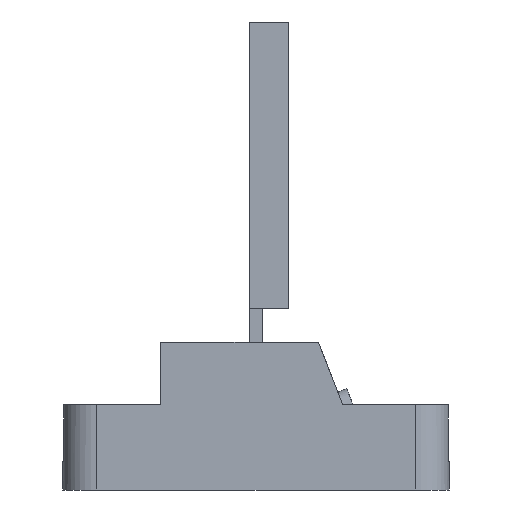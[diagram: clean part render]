
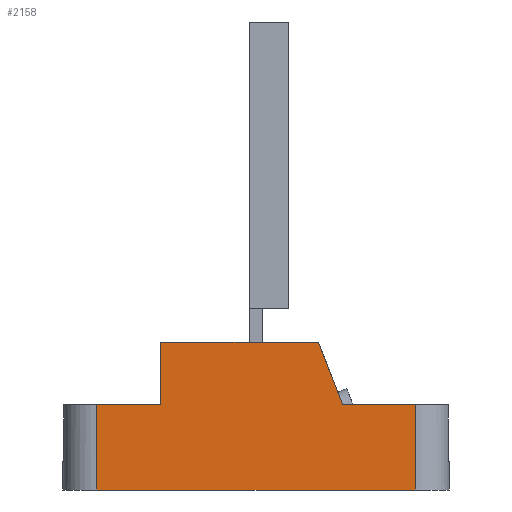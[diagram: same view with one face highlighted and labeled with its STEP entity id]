
A CAD part, left-side view. The second image highlights one B-rep face of the part: STEP entity #2158.
In plain terms, the highlighted planar face has unit normal (-1, 0, 0).
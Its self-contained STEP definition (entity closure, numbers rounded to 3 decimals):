
#20 = LINE ( 'NONE', #30, #34 ) ;
#30 = CARTESIAN_POINT ( 'NONE',  ( -7.5, -6.946, -3.741 ) ) ;
#33 = DIRECTION ( 'NONE',  ( 0., 0.361, 0.933 ) ) ;
#34 = VECTOR ( 'NONE', #33, 1000. ) ;
#596 = CARTESIAN_POINT ( 'NONE',  ( -7.5, -5.5, 0. ) ) ;
#888 = DIRECTION ( 'NONE',  ( 0., -1., 0. ) ) ;
#889 = VECTOR ( 'NONE', #888, 1000. ) ;
#890 = CARTESIAN_POINT ( 'NONE',  ( -7.5, 17., 0. ) ) ;
#891 = LINE ( 'NONE', #890, #889 ) ;
#1024 = CARTESIAN_POINT ( 'NONE',  ( -7.5, 17., -13. ) ) ;
#1039 = CARTESIAN_POINT ( 'NONE',  ( -7.5, 17., -5.5 ) ) ;
#1040 = LINE ( 'NONE', #1060, #1086 ) ;
#1049 = DIRECTION ( 'NONE',  ( 0., 0., 1. ) ) ;
#1051 = LINE ( 'NONE', #1039, #1118 ) ;
#1060 = CARTESIAN_POINT ( 'NONE',  ( -7.5, -14., -13. ) ) ;
#1084 = DIRECTION ( 'NONE',  ( 0., -1., 0. ) ) ;
#1085 = VECTOR ( 'NONE', #1084, 1000. ) ;
#1086 = VECTOR ( 'NONE', #1049, 1000. ) ;
#1117 = DIRECTION ( 'NONE',  ( 0., -1., 0. ) ) ;
#1118 = VECTOR ( 'NONE', #1117, 1000. ) ;
#1177 = CARTESIAN_POINT ( 'NONE',  ( -7.5, -14., -5.5 ) ) ;
#1179 = DIRECTION ( 'NONE',  ( 0., 0., 1. ) ) ;
#1180 = VECTOR ( 'NONE', #1179, 1000. ) ;
#1210 = CARTESIAN_POINT ( 'NONE',  ( -7.5, 8.4, -5.5 ) ) ;
#1211 = LINE ( 'NONE', #1210, #1180 ) ;
#1216 = CARTESIAN_POINT ( 'NONE',  ( -7.5, -7.627, -5.5 ) ) ;
#1225 = CARTESIAN_POINT ( 'NONE',  ( -7.5, 8.4, 0. ) ) ;
#1329 = CARTESIAN_POINT ( 'NONE',  ( -7.5, 14., -13. ) ) ;
#1330 = LINE ( 'NONE', #1329, #1386 ) ;
#1385 = DIRECTION ( 'NONE',  ( 0., 0., -1. ) ) ;
#1386 = VECTOR ( 'NONE', #1385, 1000. ) ;
#1388 = CARTESIAN_POINT ( 'NONE',  ( -7.5, 14., -5.5 ) ) ;
#1406 = CARTESIAN_POINT ( 'NONE',  ( -7.5, -14., -13. ) ) ;
#1409 = CARTESIAN_POINT ( 'NONE',  ( -7.5, 8.4, -5.5 ) ) ;
#1420 = CARTESIAN_POINT ( 'NONE',  ( -7.5, 17., -13. ) ) ;
#1424 = AXIS2_PLACEMENT_3D ( 'NONE', #1420, #1443, #1442 ) ;
#1442 = DIRECTION ( 'NONE',  ( 0., 0., 1. ) ) ;
#1443 = DIRECTION ( 'NONE',  ( -1., 0., 0. ) ) ;
#1453 = CARTESIAN_POINT ( 'NONE',  ( -7.5, 14., -13. ) ) ;
#1454 = PLANE ( 'NONE',  #1424 ) ;
#1474 = FACE_OUTER_BOUND ( 'NONE', #2050, .T. ) ;
#1481 = LINE ( 'NONE', #1024, #1085 ) ;
#1494 = LINE ( 'NONE', #1508, #1506 ) ;
#1504 = DIRECTION ( 'NONE',  ( 0., 1., 0. ) ) ;
#1506 = VECTOR ( 'NONE', #1504, 1000. ) ;
#1508 = CARTESIAN_POINT ( 'NONE',  ( -7.5, -17., -5.5 ) ) ;
#1999 = EDGE_CURVE ( 'NONE', #2079, #2080, #891, .T. ) ;
#2036 = VERTEX_POINT ( 'NONE', #1177 ) ;
#2039 = EDGE_CURVE ( 'NONE', #2168, #2079, #1211, .T. ) ;
#2049 = VERTEX_POINT ( 'NONE', #1216 ) ;
#2050 = EDGE_LOOP ( 'NONE', ( #2212, #2234, #2200, #2233, #2255, #2221, #2219, #2163 ) ) ;
#2079 = VERTEX_POINT ( 'NONE', #1225 ) ;
#2080 = VERTEX_POINT ( 'NONE', #596 ) ;
#2134 = VERTEX_POINT ( 'NONE', #1388 ) ;
#2150 = VERTEX_POINT ( 'NONE', #1406 ) ;
#2158 = ADVANCED_FACE ( 'NONE', ( #1474 ), #1454, .T. ) ;
#2160 = VERTEX_POINT ( 'NONE', #1453 ) ;
#2163 = ORIENTED_EDGE ( 'NONE', *, *, #2230, .T. ) ;
#2168 = VERTEX_POINT ( 'NONE', #1409 ) ;
#2196 = EDGE_CURVE ( 'NONE', #2036, #2049, #1494, .T. ) ;
#2200 = ORIENTED_EDGE ( 'NONE', *, *, #2196, .T. ) ;
#2210 = EDGE_CURVE ( 'NONE', #2160, #2150, #1481, .T. ) ;
#2212 = ORIENTED_EDGE ( 'NONE', *, *, #2210, .T. ) ;
#2213 = EDGE_CURVE ( 'NONE', #2150, #2036, #1040, .T. ) ;
#2219 = ORIENTED_EDGE ( 'NONE', *, *, #2222, .F. ) ;
#2221 = ORIENTED_EDGE ( 'NONE', *, *, #2039, .F. ) ;
#2222 = EDGE_CURVE ( 'NONE', #2134, #2168, #1051, .T. ) ;
#2230 = EDGE_CURVE ( 'NONE', #2134, #2160, #1330, .T. ) ;
#2233 = ORIENTED_EDGE ( 'NONE', *, *, #2244, .T. ) ;
#2234 = ORIENTED_EDGE ( 'NONE', *, *, #2213, .T. ) ;
#2244 = EDGE_CURVE ( 'NONE', #2049, #2080, #20, .T. ) ;
#2255 = ORIENTED_EDGE ( 'NONE', *, *, #1999, .F. ) ;
